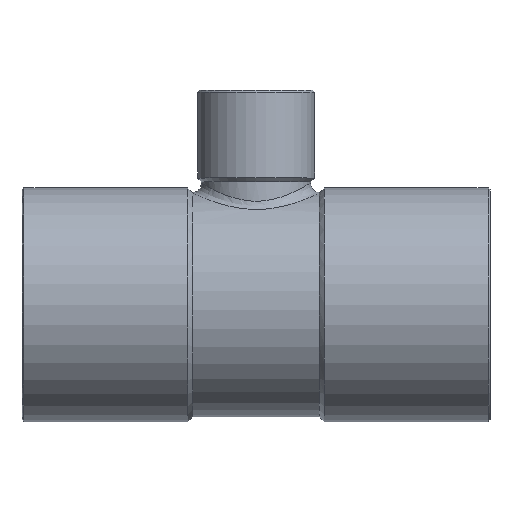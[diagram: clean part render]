
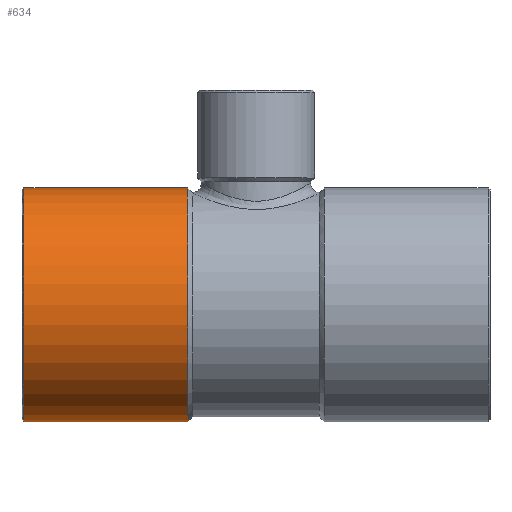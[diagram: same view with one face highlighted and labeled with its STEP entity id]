
A CAD part, top view. The second image highlights one B-rep face of the part: STEP entity #634.
In plain terms, the highlighted cylindrical face has radius 12 mm (diameter 24 mm), a partial arc.
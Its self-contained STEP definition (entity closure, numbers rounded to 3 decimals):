
#146=CARTESIAN_POINT('',(-7.,12.,0.0));
#147=VERTEX_POINT('',#146);
#156=CARTESIAN_POINT('',(-7.,-12.,0.));
#157=VERTEX_POINT('',#156);
#158=CARTESIAN_POINT('',(-7.,0.0,0.0));
#159=DIRECTION('',(1.0,0.0,0.0));
#160=DIRECTION('',(0.0,1.0,0.0));
#161=AXIS2_PLACEMENT_3D('',#158,#159,#160);
#162=CIRCLE('',#161,12.);
#163=EDGE_CURVE('',#147,#157,#162,.T.);
#603=CARTESIAN_POINT('',(-15.5,0.0,0.0));
#604=DIRECTION('',(1.0,0.0,0.0));
#605=DIRECTION('',(0.0,1.0,0.0));
#606=AXIS2_PLACEMENT_3D('',#603,#604,#605);
#607=CYLINDRICAL_SURFACE('',#606,12.);
#608=CARTESIAN_POINT('',(-23.8,12.,0.));
#609=VERTEX_POINT('',#608);
#610=CARTESIAN_POINT('',(-23.8,12.,0.));
#611=DIRECTION('',(1.0,0.0,0.0));
#612=VECTOR('',#611,16.8);
#613=LINE('',#610,#612);
#614=EDGE_CURVE('',#609,#147,#613,.T.);
#615=ORIENTED_EDGE('',*,*,#614,.F.);
#616=CARTESIAN_POINT('',(-23.8,-12.,0.));
#617=VERTEX_POINT('',#616);
#618=CARTESIAN_POINT('',(-23.8,0.0,0.0));
#619=DIRECTION('',(-1.0,0.0,0.0));
#620=DIRECTION('',(0.0,-1.0,0.0));
#621=AXIS2_PLACEMENT_3D('',#618,#619,#620);
#622=CIRCLE('',#621,12.);
#623=EDGE_CURVE('',#617,#609,#622,.T.);
#624=ORIENTED_EDGE('',*,*,#623,.F.);
#625=CARTESIAN_POINT('',(-7.,-12.,0.));
#626=DIRECTION('',(-1.0,0.0,0.0));
#627=VECTOR('',#626,16.8);
#628=LINE('',#625,#627);
#629=EDGE_CURVE('',#157,#617,#628,.T.);
#630=ORIENTED_EDGE('',*,*,#629,.F.);
#631=ORIENTED_EDGE('',*,*,#163,.F.);
#632=EDGE_LOOP('',(#615,#624,#630,#631));
#633=FACE_OUTER_BOUND('',#632,.T.);
#634=ADVANCED_FACE('',(#633),#607,.T.);
